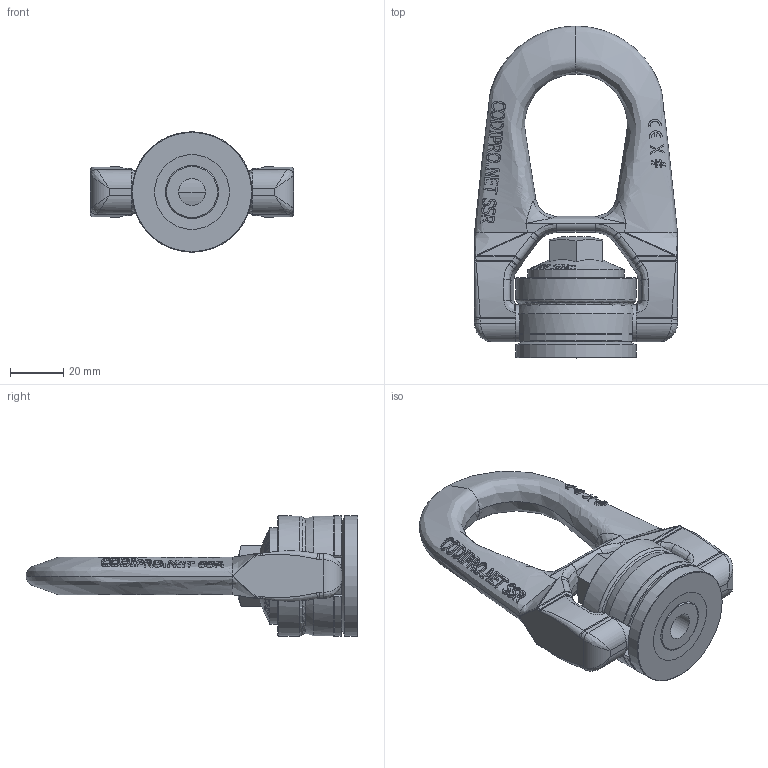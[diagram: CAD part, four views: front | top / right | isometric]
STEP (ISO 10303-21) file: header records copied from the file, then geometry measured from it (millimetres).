
FILE_DESCRIPTION(/* description */ (''),/* implementation_level */ '2;1');
FILE_NAME(/* name */ 'W:\CODIPRO\DOCUMENTS\Plans A NE PAS DIFFUSER !!!\Inventor\Standard Inventor\Produit Fini Inventor\SS_FE_DSR\Fichiers 3D\SS FE DSR M12.stp',/* time_stamp */ '2017-10-06T08:26:19+02:00',/* author */ ('rklenes'),/* organization */ (''),/* preprocessor_version */ 'ST-DEVELOPER v16.5',/* originating_system */ 'Autodesk Inventor 2017',/* authorisation */ '');
FILE_SCHEMA (('AUTOMOTIVE_DESIGN { 1 0 10303 214 3 1 1 }'));
Products named in the file (5): SS FE DSR M12; DRM_AF2B-1; DRB_B2B; SS_FE_DRA_M12; DRE_D2M20A
Assembly tree (4 placements, depth 2):
  SS FE DSR M12
    DRM_AF2B-1
    DRB_B2B
    SS_FE_DRA_M12
    DRE_D2M20A
Bounding box: 76 x 124.25 x 45 mm (x, y, z)
Volume: 104624.7 mm3; surface area: 36642.8 mm2
Topology: 4 solids, 4 shells, 788 faces, 2080 edges, 1329 vertices
Faces by surface type: plane 345, bspline 319, cylinder 81, cone 31, torus 11, sphere 1
Full cylindrical faces by diameter (mm): 10.106 x1, 14 x2, 19.85 x3, 20.05 x1, 22.6 x2, 23 x2, 32 x1, 36 x1, 45 x2
Entity records: 43870 total; most frequent: CARTESIAN_POINT 26650, ORIENTED_EDGE 4064, DIRECTION 2698, EDGE_CURVE 2032, VERTEX_POINT 1324, AXIS2_PLACEMENT_3D 995, EDGE_LOOP 868, FACE_OUTER_BOUND 788
